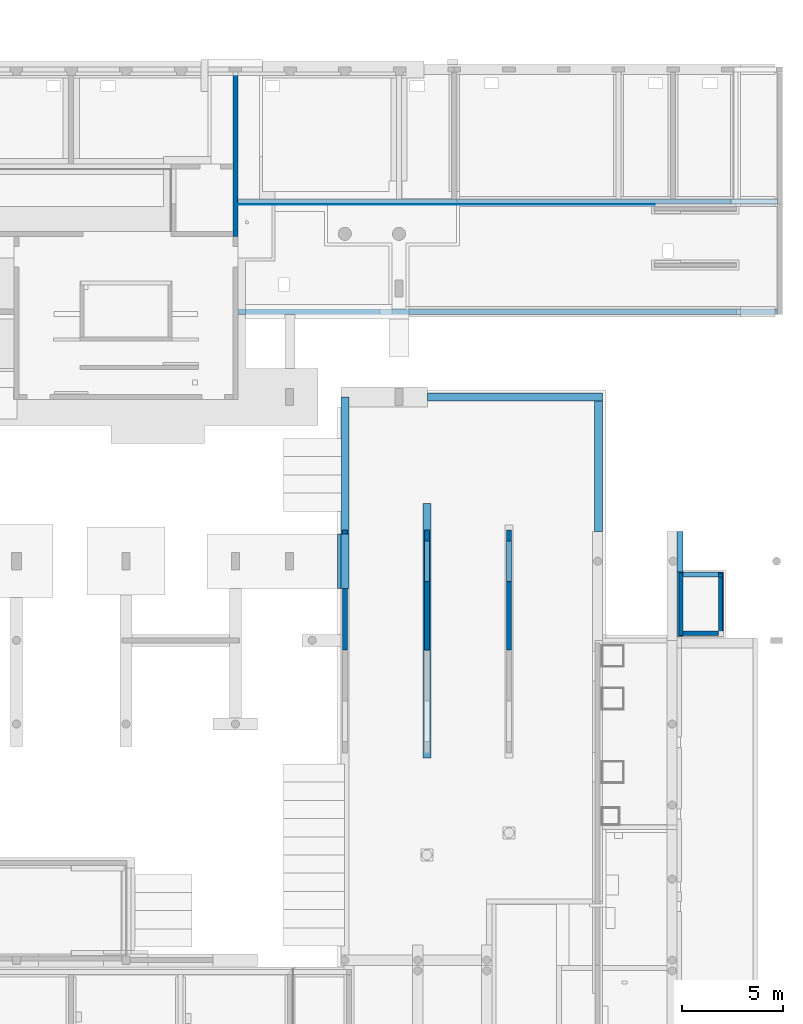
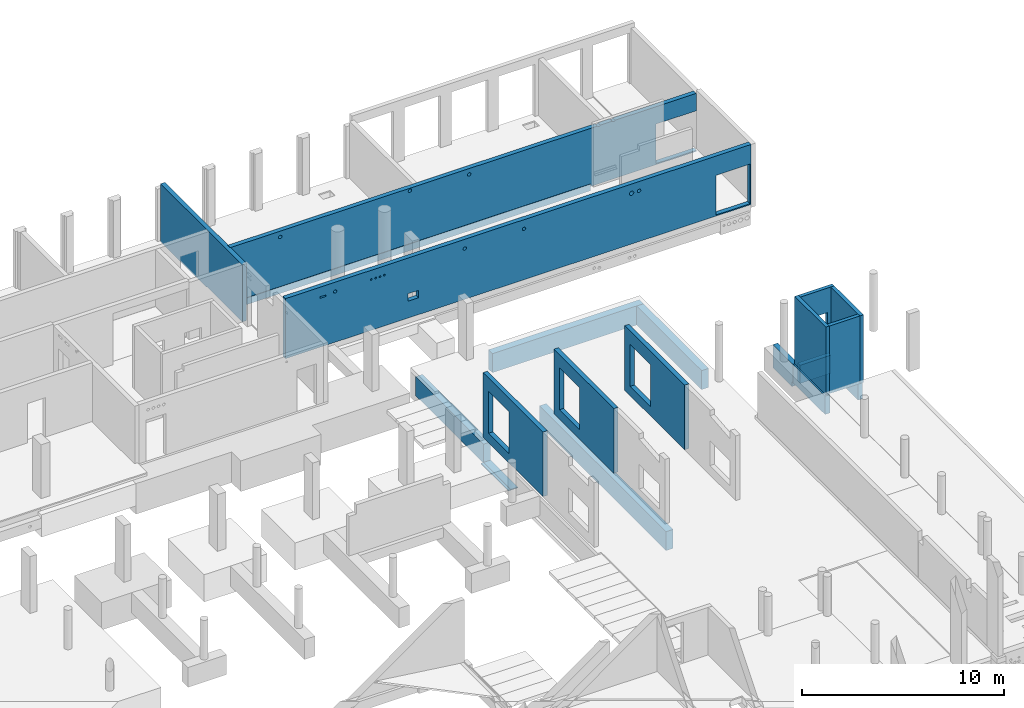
# One storey, part 47 of 60: 21 walls, 24 openings.
"""IFC2X3 building model written with IfcOpenShell, lengths in millimetres."""

from ifc_helpers import new_model, entity, si_unit, converted_unit, derived_unit, direction, frame, frame_2d, origin, origin_2d_with_axis, place, context, subcontext, project, spatial, polyline, rectangle, circle, extrude, clip, bounded_halfspace, material, layer, layer_set, layer_usage, type_object, element, save


model = new_model("IFC2X3")

# Units and contexts
model_context = context("Model", 3, precision=0.01, world=origin(), true_north=direction((6.12303176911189e-17, 1.0)))
body_context = subcontext(model_context, "Body", "Model", "MODEL_VIEW")
ifc_project = project(units=[si_unit("LENGTHUNIT", "METRE", prefix="MILLI"), si_unit("AREAUNIT", "SQUARE_METRE"), si_unit("VOLUMEUNIT", "CUBIC_METRE"), converted_unit("PLANEANGLEUNIT", "DEGREE", entity("IfcRatioMeasure", 0.0174532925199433), si_unit("PLANEANGLEUNIT", "RADIAN"), dimensions=[0, 0, 0, 0, 0, 0, 0]), si_unit("MASSUNIT", "GRAM", prefix="KILO"), derived_unit("MASSDENSITYUNIT", [(si_unit("MASSUNIT", "GRAM", prefix="KILO"), 1), (si_unit("LENGTHUNIT", "METRE"), -3)]), si_unit("TIMEUNIT", "SECOND"), si_unit("FREQUENCYUNIT", "HERTZ"), si_unit("THERMODYNAMICTEMPERATUREUNIT", "DEGREE_CELSIUS"), derived_unit("THERMALTRANSMITTANCEUNIT", [(si_unit("MASSUNIT", "GRAM", prefix="KILO"), 1), (si_unit("THERMODYNAMICTEMPERATUREUNIT", "KELVIN"), -1), (si_unit("TIMEUNIT", "SECOND"), -3)]), derived_unit("VOLUMETRICFLOWRATEUNIT", [(si_unit("LENGTHUNIT", "METRE"), 3), (si_unit("TIMEUNIT", "SECOND"), -1)]), si_unit("ELECTRICCURRENTUNIT", "AMPERE"), si_unit("ELECTRICVOLTAGEUNIT", "VOLT"), si_unit("POWERUNIT", "WATT"), si_unit("FORCEUNIT", "NEWTON", prefix="KILO"), si_unit("ILLUMINANCEUNIT", "LUX"), si_unit("LUMINOUSFLUXUNIT", "LUMEN"), si_unit("LUMINOUSINTENSITYUNIT", "CANDELA"), derived_unit("USERDEFINED", [(si_unit("MASSUNIT", "GRAM", prefix="KILO"), -1), (si_unit("LENGTHUNIT", "METRE"), -2), (si_unit("TIMEUNIT", "SECOND"), 3), (si_unit("LUMINOUSFLUXUNIT", "LUMEN"), 1)]), derived_unit("LINEARVELOCITYUNIT", [(si_unit("LENGTHUNIT", "METRE"), 1), (si_unit("TIMEUNIT", "SECOND"), -1)]), si_unit("PRESSUREUNIT", "PASCAL"), derived_unit("USERDEFINED", [(si_unit("LENGTHUNIT", "METRE"), -2), (si_unit("MASSUNIT", "GRAM", prefix="KILO"), 1), (si_unit("TIMEUNIT", "SECOND"), -2)])], contexts=[model_context])

# Site, building, storey
site_placement = place(None, origin())
site = spatial("IfcSite", under=ifc_project, at=site_placement, Name="Default", CompositionType="ELEMENT")
building_placement = place(site_placement, origin())
building = spatial("IfcBuilding", under=site, at=building_placement, Name="niet gebruiken", CompositionType="ELEMENT")
storey_placement = place(building_placement, origin())
storey = spatial("IfcBuildingStorey", under=building, at=storey_placement, Name="00 begane grond", CompositionType="ELEMENT", Elevation=0.0)

# Wall, openings
ifc_material_1 = material(Name="NLRS_f2_beton ihwg")
ifc_layer_1 = layer(ifc_material_1, 250.0)
ifc_layer_set_1 = layer_set([ifc_layer_1], Name="Basic Wall:NLRS_22.21_WA_beton ihwg d=250_gen")
ifc_layer_usage_1 = layer_usage(ifc_layer_set_1, "AXIS2", "NEGATIVE", 125.0)
wall_type_1 = type_object("IfcWallType", Name="Basic Wall:NLRS_22.21_WA_beton ihwg d=250_gen", PredefinedType="STANDARD", material=ifc_layer_set_1)
wall_1_placement = place(storey_placement, frame((97300.0, 46621.0, -160.0)))
wall_1 = element("IfcWallStandardCase", 1, at=wall_1_placement, inside=storey, type_object=wall_type_1, material=ifc_layer_usage_1, Name="Basic Wall:NLRS_22.21_WA_beton ihwg d=250_gen", ObjectType="Basic Wall:NLRS_22.21_WA_beton ihwg d=250_gen", context=body_context, shape_type="SweptSolid", body=[
    extrude(rectangle(XDim=26650.0, YDim=249.999999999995, at=frame_2d((13325.0, 6.53699316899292e-13), x_axis=(-1.0, 0.0))), origin(), (0.0, 0.0, 1.0), 3511.59527223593),
])
opening_1_placement = place(wall_1_placement, origin())
element("IfcOpeningElement", 2, at=opening_1_placement, cuts=wall_1, Name="Basic Wall:NLRS_22.21_WA_beton ihwg d=250_gen", ObjectType="Opening", context=body_context, shape_type="SweptSolid", body=[
    extrude(rectangle(XDim=2390.0, YDim=2300.0, at=frame_2d((1.13686837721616e-13, 1.72803993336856e-11), x_axis=(1.0, 0.0))), frame((25500.0, -1649.0, 1265.0), z_axis=(0.0, 1.0, 0.0), x_axis=(0.0, 0.0, 1.0)), (0.0, 0.0, 1.0), 3048.0),
])
opening_2_placement = place(wall_1_placement, origin())
element("IfcOpeningElement", 3, at=opening_2_placement, cuts=wall_1, Name="Basic Wall:NLRS_22.21_WA_beton ihwg d=250_gen", ObjectType="Opening", context=body_context, shape_type="SweptSolid", body=[
    extrude(circle(Radius=100.0, at=frame_2d((0.0, -5.41433564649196e-13), x_axis=(1.0, 0.0))), frame((21925.0, -125.0, 3560.0), z_axis=(0.0, 1.0, 0.0), x_axis=(1.0, 0.0, 0.0)), (0.0, 0.0, 1.0), 250.000000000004),
])
opening_3_placement = place(wall_1_placement, origin())
element("IfcOpeningElement", 4, at=opening_3_placement, cuts=wall_1, Name="Basic Wall:NLRS_22.21_WA_beton ihwg d=250_gen", ObjectType="Opening", context=body_context, shape_type="SweptSolid", body=[
    extrude(circle(Radius=100.0, at=frame_2d((0.0, -5.41433564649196e-13), x_axis=(1.0, 0.0))), frame((21075.0, -125.0, 3560.0), z_axis=(0.0, 1.0, 0.0), x_axis=(1.0, 0.0, 0.0)), (0.0, 0.0, 1.0), 250.000000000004),
])
opening_4_placement = place(wall_1_placement, origin())
element("IfcOpeningElement", 5, at=opening_4_placement, cuts=wall_1, Name="Basic Wall:NLRS_22.21_WA_beton ihwg d=250_gen", ObjectType="Opening", context=body_context, shape_type="SweptSolid", body=[
    extrude(circle(Radius=100.0, at=frame_2d((0.0, -5.41433564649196e-13), x_axis=(1.0, 0.0))), frame((2860.0, -125.0, 3160.0), z_axis=(0.0, 1.0, 0.0), x_axis=(1.0, 0.0, 0.0)), (0.0, 0.0, 1.0), 250.000000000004),
])
opening_5_placement = place(wall_1_placement, origin())
element("IfcOpeningElement", 6, at=opening_5_placement, cuts=wall_1, Name="Basic Wall:NLRS_22.21_WA_beton ihwg d=250_gen", ObjectType="Opening", context=body_context, shape_type="SweptSolid", body=[
    extrude(circle(Radius=100.0, at=frame_2d((0.0, -5.41433564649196e-13), x_axis=(1.0, 0.0))), frame((13660.0, -125.0, 3160.0), z_axis=(0.0, 1.0, 0.0), x_axis=(1.0, 0.0, 0.0)), (0.0, 0.0, 1.0), 250.000000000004),
])
opening_6_placement = place(wall_1_placement, origin())
element("IfcOpeningElement", 7, at=opening_6_placement, cuts=wall_1, Name="Basic Wall:NLRS_22.21_WA_beton ihwg d=250_gen", ObjectType="Opening", context=body_context, shape_type="SweptSolid", body=[
    extrude(circle(Radius=100.0, at=frame_2d((0.0, -5.41433564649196e-13), x_axis=(1.0, 0.0))), frame((10275.0, -125.0, 3360.0), z_axis=(0.0, 1.0, 0.0), x_axis=(1.0, 0.0, 0.0)), (0.0, 0.0, 1.0), 250.000000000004),
])

ifc_layer_usage_2 = layer_usage(ifc_layer_set_1, "AXIS2", "NEGATIVE", 125.0)
wall_2_placement = place(storey_placement, frame((97325.0, 41186.0, -70.0)))
wall_2 = element("IfcWallStandardCase", 8, at=wall_2_placement, inside=storey, type_object=wall_type_1, material=ifc_layer_usage_2, Name="Basic Wall:NLRS_22.21_WA_beton ihwg d=250_gen", ObjectType="Basic Wall:NLRS_22.21_WA_beton ihwg d=250_gen", context=body_context, shape_type="SweptSolid", body=[
    extrude(rectangle(XDim=26625.0000000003, YDim=249.999999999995, at=frame_2d((13312.5000000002, 6.18172180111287e-13), x_axis=(-1.0, 0.0))), origin(), (0.0, 0.0, 1.0), 3630.0),
])
opening_7_placement = place(wall_2_placement, origin())
element("IfcOpeningElement", 9, at=opening_7_placement, cuts=wall_2, Name="Basic Wall:NLRS_22.21_WA_beton ihwg d=250_gen", ObjectType="Opening", context=body_context, shape_type="SweptSolid", body=[
    extrude(rectangle(XDim=2396.0, YDim=1950.00000000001, at=origin_2d_with_axis()), frame((25580.0, -1649.0, 1268.0), z_axis=(0.0, 1.0, 0.0), x_axis=(0.0, 0.0, 1.0)), (0.0, 0.0, 1.0), 3048.0),
])
opening_8_placement = place(wall_2_placement, origin())
element("IfcOpeningElement", 10, at=opening_8_placement, cuts=wall_2, Name="Basic Wall:NLRS_22.21_WA_beton ihwg d=250_gen", ObjectType="Opening", context=body_context, shape_type="SweptSolid", body=[
    extrude(circle(Radius=100.0, at=frame_2d((0.0, -5.41433564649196e-13), x_axis=(1.0, 0.0))), frame((2835.0, -125.0, 3070.0), z_axis=(0.0, 1.0, 0.0), x_axis=(1.0, 0.0, 0.0)), (0.0, 0.0, 1.0), 250.000000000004),
])
opening_9_placement = place(wall_2_placement, origin())
element("IfcOpeningElement", 11, at=opening_9_placement, cuts=wall_2, Name="Basic Wall:NLRS_22.21_WA_beton ihwg d=250_gen", ObjectType="Opening", context=body_context, shape_type="SweptSolid", body=[
    extrude(circle(Radius=100.0, at=frame_2d((0.0, -5.41433564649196e-13), x_axis=(1.0, 0.0))), frame((10250.0, -125.0, 3070.0), z_axis=(0.0, 1.0, 0.0), x_axis=(1.0, 0.0, 0.0)), (0.0, 0.0, 1.0), 250.000000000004),
])
opening_10_placement = place(wall_2_placement, origin())
element("IfcOpeningElement", 12, at=opening_10_placement, cuts=wall_2, Name="Basic Wall:NLRS_22.21_WA_beton ihwg d=250_gen", ObjectType="Opening", context=body_context, shape_type="SweptSolid", body=[
    extrude(circle(Radius=100.0, at=frame_2d((0.0, -5.41433564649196e-13), x_axis=(1.0, 0.0))), frame((13635.0, -125.0, 3070.0), z_axis=(0.0, 1.0, 0.0), x_axis=(1.0, 0.0, 0.0)), (0.0, 0.0, 1.0), 250.000000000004),
])
opening_11_placement = place(wall_2_placement, origin())
element("IfcOpeningElement", 13, at=opening_11_placement, cuts=wall_2, Name="Basic Wall:NLRS_22.21_WA_beton ihwg d=250_gen", ObjectType="Opening", context=body_context, shape_type="SweptSolid", body=[
    extrude(rectangle(XDim=450.0, YDim=600.000000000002, at=origin_2d_with_axis()), frame((7300.0, -125.0, 1245.0), z_axis=(0.0, 1.0, 0.0), x_axis=(0.0, 0.0, -1.0)), (0.0, 0.0, 1.0), 249.999999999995),
])
opening_12_placement = place(wall_2_placement, origin())
element("IfcOpeningElement", 14, at=opening_12_placement, cuts=wall_2, Name="Basic Wall:NLRS_22.21_WA_beton ihwg d=250_gen", ObjectType="Opening", context=body_context, shape_type="SweptSolid", body=[
    extrude(circle(Radius=125.0, at=frame_2d((0.0, -5.41433564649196e-13), x_axis=(1.0, 0.0))), frame((19790.0, -125.0, 3070.0), z_axis=(0.0, 1.0, 0.0), x_axis=(1.0, 0.0, 0.0)), (0.0, 0.0, 1.0), 250.000000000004),
])
opening_13_placement = place(wall_2_placement, origin())
element("IfcOpeningElement", 15, at=opening_13_placement, cuts=wall_2, Name="Basic Wall:NLRS_22.21_WA_beton ihwg d=250_gen", ObjectType="Opening", context=body_context, shape_type="SweptSolid", body=[
    extrude(circle(Radius=100.0, at=frame_2d((0.0, -5.41433564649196e-13), x_axis=(1.0, 0.0))), frame((20215.0, -125.0, 3070.0), z_axis=(0.0, 1.0, 0.0), x_axis=(1.0, 0.0, 0.0)), (0.0, 0.0, 1.0), 250.000000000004),
])
opening_14_placement = place(wall_2_placement, origin())
element("IfcOpeningElement", 16, at=opening_14_placement, cuts=wall_2, Name="Basic Wall:NLRS_22.21_WA_beton ihwg d=250_gen", ObjectType="Opening", context=body_context, shape_type="SweptSolid", body=[
    extrude(rectangle(XDim=100.0, YDim=339.999999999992, at=origin_2d_with_axis()), frame((2149.99999001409, -125.0, 3000.0), z_axis=(0.0, 1.0, 0.0), x_axis=(0.0, 0.0, -1.0)), (0.0, 0.0, 1.0), 249.999999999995),
])
opening_15_placement = place(wall_2_placement, origin())
element("IfcOpeningElement", 17, at=opening_15_placement, cuts=wall_2, Name="Basic Wall:NLRS_22.21_WA_beton ihwg d=250_gen", ObjectType="Opening", context=body_context, shape_type="SweptSolid", body=[
    extrude(circle(Radius=55.0, at=origin_2d_with_axis()), frame((5650.06800898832, -125.0, 3070.0), z_axis=(0.0, 1.0, 0.0), x_axis=(1.0, 0.0, 0.0)), (0.0, 0.0, 1.0), 250.000000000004),
])
opening_16_placement = place(wall_2_placement, origin())
element("IfcOpeningElement", 18, at=opening_16_placement, cuts=wall_2, Name="Basic Wall:NLRS_22.21_WA_beton ihwg d=250_gen", ObjectType="Opening", context=body_context, shape_type="SweptSolid", body=[
    extrude(circle(Radius=55.0, at=origin_2d_with_axis()), frame((5400.06800898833, -125.0, 3070.0), z_axis=(0.0, 1.0, 0.0), x_axis=(1.0, 0.0, 0.0)), (0.0, 0.0, 1.0), 250.000000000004),
])
opening_17_placement = place(wall_2_placement, origin())
element("IfcOpeningElement", 19, at=opening_17_placement, cuts=wall_2, Name="Basic Wall:NLRS_22.21_WA_beton ihwg d=250_gen", ObjectType="Opening", context=body_context, shape_type="SweptSolid", body=[
    extrude(circle(Radius=55.0, at=origin_2d_with_axis()), frame((5150.06800898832, -125.0, 3070.0), z_axis=(0.0, 1.0, 0.0), x_axis=(1.0, 0.0, 0.0)), (0.0, 0.0, 1.0), 250.000000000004),
])
opening_18_placement = place(wall_2_placement, origin())
element("IfcOpeningElement", 20, at=opening_18_placement, cuts=wall_2, Name="Basic Wall:NLRS_22.21_WA_beton ihwg d=250_gen", ObjectType="Opening", context=body_context, shape_type="SweptSolid", body=[
    extrude(circle(Radius=55.0, at=origin_2d_with_axis()), frame((4900.06800898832, -125.0, 3070.0), z_axis=(0.0, 1.0, 0.0), x_axis=(1.0, 0.0, 0.0)), (0.0, 0.0, 1.0), 250.000000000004),
])

# Wall, opening
ifc_layer_usage_3 = layer_usage(ifc_layer_set_1, "AXIS2", "NEGATIVE", 125.0)
wall_3_placement = place(storey_placement, frame((97200.0, 53006.0, -160.0), z_axis=(0.0, 0.0, 1.0), x_axis=(0.0, -1.0, 0.0)))
wall_3 = element("IfcWallStandardCase", 21, at=wall_3_placement, inside=storey, type_object=wall_type_1, material=ifc_layer_usage_3, Name="Basic Wall:NLRS_22.21_WA_beton ihwg d=250_gen", ObjectType="Basic Wall:NLRS_22.21_WA_beton ihwg d=250_gen", context=body_context, shape_type="Clipping", body=[
    clip(clip(clip(clip(extrude(rectangle(XDim=8099.99999999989, YDim=250.000000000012, at=frame_2d((4049.99999999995, -8.66862137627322e-13), x_axis=(-1.0, 0.0))), origin(), (0.0, 0.0, 1.0), 3510.00000000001), bounded_halfspace(frame((6260.0, 100.0, 3510.0), z_axis=(0.0, -1.0, 0.0), x_axis=(-1.0, 0.0, 0.0)), True, frame((6260.0, 100.0, 3510.0), z_axis=(0.0, -1.0, 0.0), x_axis=(-1.0, 0.0, 0.0)), polyline([(0.0, 0.0), (0.0, 3440.0), (-250.0, 3440.0), (-250.0, 0.0), (0.0, 0.0)]))), bounded_halfspace(frame((0.0, -125.0, 3510.0), z_axis=(0.0, 0.0, -1.0), x_axis=(1.0, 0.0, 0.0)), True, frame((0.0, -125.0, 3510.0), z_axis=(0.0, 0.0, -1.0), x_axis=(1.0, 0.0, 0.0)), polyline([(0.0, 0.0), (0.0, -20.0), (0.0, -230.0), (0.0, -250.0), (2580.0, -250.0), (5860.0, -250.0), (6260.0, -250.0), (6260.0, -225.0), (6510.0, -225.0), (6510.0, -250.0), (8100.0, -250.0), (8100.0, 0.0), (7850.0, 0.0), (4780.0, 0.0), (4530.0, 0.0), (0.0, 0.0)]))), bounded_halfspace(frame((4530.0, -125.0, 70.0)), True, frame((4530.0, -125.0, 70.0)), polyline([(0.0, 0.0), (250.0, 0.0), (3320.0, 0.0), (3570.0, 0.0), (3570.0, 250.0), (1980.0, 250.0), (1980.0, 225.0), (1730.0, 225.0), (1730.0, 250.0), (5.0, 250.0), (5.0, 210.0), (0.0, 210.0), (0.0, 0.0)]))), bounded_halfspace(frame((4530.0, 85.0, 70.0), z_axis=(-1.0, 0.0, 0.0), x_axis=(0.0, 0.0, 1.0)), True, frame((4530.0, 85.0, 70.0), z_axis=(-1.0, 0.0, 0.0), x_axis=(0.0, 0.0, 1.0)), polyline([(0.0, 0.0), (0.0, 40.0), (-70.0, 40.0), (-70.0, -210.0), (0.0, -210.0), (0.0, 0.0)]))),
])
opening_19_placement = place(wall_3_placement, origin())
element("IfcOpeningElement", 22, at=opening_19_placement, cuts=wall_3, Name="Basic Wall:NLRS_22.21_WA_beton ihwg d=250_gen", ObjectType="Recess", context=body_context, shape_type="SweptSolid", body=[
    extrude(rectangle(XDim=890.0, YDim=49.9999999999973, at=origin_2d_with_axis()), frame((4510.0, 85.0, 515.0), z_axis=(0.0, 1.0, 0.0), x_axis=(0.0, 0.0, -1.0)), (0.0, 0.0, 1.0), 39.9999999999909),
])

ifc_material_2 = material(Name="NLRS_f2_beton prefab")
ifc_layer_2 = layer(ifc_material_2, 250.0)
ifc_layer_set_2 = layer_set([ifc_layer_2], Name="Basic Wall:NLRS_22.21_WA_beton prefab d=250_gen")
ifc_layer_usage_4 = layer_usage(ifc_layer_set_2, "AXIS2", "NEGATIVE", 125.0)
wall_type_2 = type_object("IfcWallType", Name="Basic Wall:NLRS_22.21_WA_beton prefab d=250_gen", PredefinedType="STANDARD", material=ifc_layer_set_2)
wall_4_placement = place(storey_placement, frame((102600.0, 30426.0, -170.0), z_axis=(0.0, 0.0, 1.0), x_axis=(0.0, -1.0, 0.0)))
wall_4 = element("IfcWallStandardCase", 23, at=wall_4_placement, inside=storey, type_object=wall_type_2, material=ifc_layer_usage_4, Name="Basic Wall:NLRS_22.21_WA_beton prefab d=250_gen", ObjectType="Basic Wall:NLRS_22.21_WA_beton prefab d=250_gen", context=body_context, shape_type="SweptSolid", body=[
    extrude(rectangle(XDim=5934.99999999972, YDim=250.000000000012, at=frame_2d((2967.49999999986, 0.0), x_axis=(-1.0, 0.0))), origin(), (0.0, 0.0, 1.0), 3910.00000000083),
])
opening_20_placement = place(wall_4_placement, origin())
element("IfcOpeningElement", 24, at=opening_20_placement, cuts=wall_4, Name="Basic Wall:NLRS_22.21_WA_beton prefab d=250_gen", ObjectType="Opening", context=body_context, shape_type="SweptSolid", body=[
    extrude(rectangle(XDim=2540.0, YDim=2000.0, at=frame_2d((-2.1600499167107e-12, 1.13686837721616e-13), x_axis=(0.0, 1.0))), frame((1550.0, -1399.0, 1840.0), z_axis=(0.0, 1.0, 0.0), x_axis=(-1.0, 0.0, 0.0)), (0.0, 0.0, 1.0), 3048.0),
])

ifc_layer_usage_5 = layer_usage(ifc_layer_set_2, "AXIS2", "NEGATIVE", 125.0)
wall_5_placement = place(storey_placement, frame((106650.0, 30426.0, -170.0), z_axis=(0.0, 0.0, 1.0), x_axis=(0.0, -1.0, 0.0)))
wall_5 = element("IfcWallStandardCase", 25, at=wall_5_placement, inside=storey, type_object=wall_type_2, material=ifc_layer_usage_5, Name="Basic Wall:NLRS_22.21_WA_beton prefab d=250_gen", ObjectType="Basic Wall:NLRS_22.21_WA_beton prefab d=250_gen", context=body_context, shape_type="SweptSolid", body=[
    extrude(rectangle(XDim=5934.99999999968, YDim=250.000000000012, at=frame_2d((2967.49999999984, 0.0), x_axis=(-1.0, 0.0))), origin(), (0.0, 0.0, 1.0), 3910.00000000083),
])
opening_21_placement = place(wall_5_placement, origin())
element("IfcOpeningElement", 26, at=opening_21_placement, cuts=wall_5, Name="Basic Wall:NLRS_22.21_WA_beton prefab d=250_gen", ObjectType="Opening", context=body_context, shape_type="SweptSolid", body=[
    extrude(rectangle(XDim=2540.0, YDim=2000.0, at=frame_2d((2.1600499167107e-12, 1.13686837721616e-13), x_axis=(0.0, 1.0))), frame((1550.0, -1399.0, 1840.0), z_axis=(0.0, 1.0, 0.0), x_axis=(-1.0, 0.0, 0.0)), (0.0, 0.0, 1.0), 3048.0),
])

ifc_layer_usage_6 = layer_usage(ifc_layer_set_2, "AXIS2", "NEGATIVE", 125.0)
wall_6_placement = place(storey_placement, frame((110700.0, 30426.0, -170.0), z_axis=(0.0, 0.0, 1.0), x_axis=(0.0, -1.0, 0.0)))
wall_6 = element("IfcWallStandardCase", 27, at=wall_6_placement, inside=storey, type_object=wall_type_2, material=ifc_layer_usage_6, Name="Basic Wall:NLRS_22.21_WA_beton prefab d=250_gen", ObjectType="Basic Wall:NLRS_22.21_WA_beton prefab d=250_gen", context=body_context, shape_type="SweptSolid", body=[
    extrude(rectangle(XDim=5934.99999999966, YDim=250.000000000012, at=frame_2d((2967.49999999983, 0.0), x_axis=(-1.0, 0.0))), origin(), (0.0, 0.0, 1.0), 3910.00000000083),
])
opening_22_placement = place(wall_6_placement, origin())
element("IfcOpeningElement", 28, at=opening_22_placement, cuts=wall_6, Name="Basic Wall:NLRS_22.21_WA_beton prefab d=250_gen", ObjectType="Opening", context=body_context, shape_type="SweptSolid", body=[
    extrude(rectangle(XDim=2540.0, YDim=2000.0, at=frame_2d((-2.1600499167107e-12, 1.13686837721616e-13), x_axis=(0.0, 1.0))), frame((1550.0, -1399.0, 1840.0), z_axis=(0.0, 1.0, 0.0), x_axis=(-1.0, 0.0, 0.0)), (0.0, 0.0, 1.0), 3048.0),
])

# Walls
ifc_layer_3 = layer(ifc_material_1, 250.0)
ifc_layer_set_3 = layer_set([ifc_layer_3], Name="Basic Wall:NLRS_16.21_WA_beton ihwg d=250_gen")
ifc_layer_usage_7 = layer_usage(ifc_layer_set_3, "AXIS2", "NEGATIVE", 125.0)
wall_type_3 = type_object("IfcWallType", Name="Basic Wall:NLRS_16.21_WA_beton ihwg d=250_gen", PredefinedType="STANDARD", material=ifc_layer_set_3)
wall_7_placement = place(storey_placement, frame((119275.0, 28231.0, -1400.0)))
element("IfcWallStandardCase", 29, at=wall_7_placement, inside=storey, type_object=wall_type_3, material=ifc_layer_usage_7, Name="Basic Wall:NLRS_16.21_WA_beton ihwg d=250_gen", ObjectType="Basic Wall:NLRS_16.21_WA_beton ihwg d=250_gen", context=body_context, shape_type="SweptSolid", body=[
    extrude(rectangle(XDim=1750.00000000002, YDim=250.000000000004, at=frame_2d((875.000000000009, 0.0), x_axis=(-1.0, 0.0))), origin(), (0.0, 0.0, 1.0), 1100.0),
])
ifc_layer_usage_8 = layer_usage(ifc_layer_set_3, "AXIS2", "NEGATIVE", 125.0)
wall_8_placement = place(storey_placement, frame((121150.0, 28356.0, -1400.0), z_axis=(0.0, 0.0, 1.0), x_axis=(0.0, -1.0, 0.0)))
element("IfcWallStandardCase", 30, at=wall_8_placement, inside=storey, type_object=wall_type_3, material=ifc_layer_usage_8, Name="Basic Wall:NLRS_16.21_WA_beton ihwg d=250_gen", ObjectType="Basic Wall:NLRS_16.21_WA_beton ihwg d=250_gen", context=body_context, shape_type="SweptSolid", body=[
    extrude(rectangle(XDim=2930.0, YDim=250.000000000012, at=frame_2d((1465.0, 2.41584530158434e-13), x_axis=(-1.0, 0.0))), origin(), (0.0, 0.0, 1.0), 1100.0),
])
ifc_layer_4 = layer(ifc_material_2, 200.0)
ifc_layer_set_4 = layer_set([ifc_layer_4], Name="Basic Wall:NLRS_22.21_WA_beton prefab d=200_gen")
ifc_layer_usage_9 = layer_usage(ifc_layer_set_4, "AXIS2", "NEGATIVE", 100.0)
wall_type_4 = type_object("IfcWallType", Name="Basic Wall:NLRS_22.21_WA_beton prefab d=200_gen", PredefinedType="STANDARD", material=ifc_layer_set_4)
wall_9_placement = place(storey_placement, frame((119175.0, 25226.0, -270.0), z_axis=(0.0, 0.0, 1.0), x_axis=(0.0, 1.0, 0.0)))
element("IfcWallStandardCase", 31, at=wall_9_placement, inside=storey, type_object=wall_type_4, material=ifc_layer_usage_9, Name="Basic Wall:NLRS_22.21_WA_beton prefab d=200_gen", ObjectType="Basic Wall:NLRS_22.21_WA_beton prefab d=200_gen", context=body_context, shape_type="SweptSolid", body=[
    extrude(rectangle(XDim=3080.0, YDim=199.999999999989, at=frame_2d((1540.0, 0.0), x_axis=(-1.0, 0.0))), origin(), (0.0, 0.0, 1.0), 4090.0),
])
ifc_layer_usage_10 = layer_usage(ifc_layer_set_4, "AXIS2", "NEGATIVE", 100.0)
wall_10_placement = place(storey_placement, frame((121125.0, 25226.0, -270.0), z_axis=(0.0, 0.0, 1.0), x_axis=(0.0, 1.0, 0.0)))
element("IfcWallStandardCase", 32, at=wall_10_placement, inside=storey, type_object=wall_type_4, material=ifc_layer_usage_10, Name="Basic Wall:NLRS_22.21_WA_beton prefab d=200_gen", ObjectType="Basic Wall:NLRS_22.21_WA_beton prefab d=200_gen", context=body_context, shape_type="SweptSolid", body=[
    extrude(rectangle(XDim=2880.0, YDim=199.999999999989, at=frame_2d((1440.0, 0.0), x_axis=(-1.0, 0.0))), origin(), (0.0, 0.0, 1.0), 4090.0),
])
ifc_layer_usage_11 = layer_usage(ifc_layer_set_4, "AXIS2", "NEGATIVE", 100.0)
wall_11_placement = place(storey_placement, frame((121025.0, 25326.0, -270.0), z_axis=(0.0, 0.0, 1.0), x_axis=(-1.0, 0.0, 0.0)))
element("IfcWallStandardCase", 33, at=wall_11_placement, inside=storey, type_object=wall_type_4, material=ifc_layer_usage_11, Name="Basic Wall:NLRS_22.21_WA_beton prefab d=200_gen", ObjectType="Basic Wall:NLRS_22.21_WA_beton prefab d=200_gen", context=body_context, shape_type="SweptSolid", body=[
    extrude(rectangle(XDim=1750.0, YDim=199.999999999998, at=frame_2d((875.0, -6.03961325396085e-13), x_axis=(-1.0, 0.0))), origin(), (0.0, 0.0, 1.0), 4090.0),
])

# Wall, openings
ifc_layer_usage_12 = layer_usage(ifc_layer_set_4, "AXIS2", "NEGATIVE", 100.0)
wall_12_placement = place(storey_placement, frame((121225.0, 28206.0, -270.0), z_axis=(0.0, 0.0, 1.0), x_axis=(-1.0, 0.0, 0.0)))
wall_12 = element("IfcWallStandardCase", 34, at=wall_12_placement, inside=storey, type_object=wall_type_4, material=ifc_layer_usage_12, Name="Basic Wall:NLRS_22.21_WA_beton prefab d=200_gen", ObjectType="Basic Wall:NLRS_22.21_WA_beton prefab d=200_gen", context=body_context, shape_type="SweptSolid", body=[
    extrude(rectangle(XDim=1950.00000000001, YDim=199.999999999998, at=frame_2d((975.000000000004, -4.2632564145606e-13), x_axis=(-1.0, 0.0))), origin(), (0.0, 0.0, 1.0), 4090.0),
])
opening_23_placement = place(wall_12_placement, origin())
element("IfcOpeningElement", 35, at=opening_23_placement, cuts=wall_12, Name="Basic Wall:NLRS_22.21_WA_beton prefab d=200_gen", ObjectType="Opening", context=body_context, shape_type="SweptSolid", body=[
    extrude(rectangle(XDim=2340.0, YDim=980.000000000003, at=frame_2d((8.66862137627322e-12, 0.0), x_axis=(0.0, 1.0))), frame((870.0, -1424.0, 1440.0), z_axis=(0.0, 1.0, 0.0), x_axis=(-1.0, 0.0, 0.0)), (0.0, 0.0, 1.0), 3048.0),
])
opening_24_placement = place(wall_12_placement, origin())
element("IfcOpeningElement", 36, at=opening_24_placement, cuts=wall_12, Name="Basic Wall:NLRS_22.21_WA_beton prefab d=200_gen", ObjectType="Opening", context=body_context, shape_type="SweptSolid", body=[
    extrude(rectangle(XDim=505.000000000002, YDim=75.0000000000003, at=frame_2d((-7.105427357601e-14, 0.0), x_axis=(1.0, 0.0))), frame((237.500000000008, -1624.0, 1472.5), z_axis=(0.0, 1.0, 0.0), x_axis=(0.0, 0.0, 1.0)), (0.0, 0.0, 1.0), 3048.0),
])

# Walls
ifc_layer_5 = layer(ifc_material_1, 150.0)
ifc_layer_set_5 = layer_set([ifc_layer_5], Name="Basic Wall:NLRS_21.21_WA_beton ihwg d=150_gen")
ifc_layer_usage_13 = layer_usage(ifc_layer_set_5, "AXIS2", "NEGATIVE", 75.0)
wall_type_5 = type_object("IfcWallType", Name="Basic Wall:NLRS_21.21_WA_beton ihwg d=150_gen", PredefinedType="STANDARD", material=ifc_layer_set_5)
wall_13_placement = place(storey_placement, frame((102325.0, 30231.0, -1600.0), z_axis=(0.0, 0.0, 1.0), x_axis=(0.0, -1.0, 0.0)))
element("IfcWallStandardCase", 37, at=wall_13_placement, inside=storey, type_object=wall_type_5, material=ifc_layer_usage_13, Name="Basic Wall:NLRS_21.21_WA_beton ihwg d=150_gen", ObjectType="Basic Wall:NLRS_21.21_WA_beton ihwg d=150_gen", context=body_context, shape_type="SweptSolid", body=[
    extrude(rectangle(XDim=2700.00000000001, YDim=150.000000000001, at=frame_2d((1350.0, 0.0), x_axis=(-1.0, 0.0))), origin(), (0.0, 0.0, 1.0), 50.0000000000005),
])
ifc_layer_6 = layer(ifc_material_1, 400.0)
ifc_layer_set_6 = layer_set([ifc_layer_6], Name="Basic Wall:NLRS_16.21_WA_beton ihwg d=400_gen")
ifc_layer_usage_14 = layer_usage(ifc_layer_set_6, "AXIS2", "NEGATIVE", 200.0)
wall_type_6 = type_object("IfcWallType", Name="Basic Wall:NLRS_16.21_WA_beton ihwg d=400_gen", PredefinedType="STANDARD", material=ifc_layer_set_6)
wall_14_placement = place(storey_placement, frame((102600.0, 36981.0, -1600.0), z_axis=(0.0, 0.0, 1.0), x_axis=(0.0, -1.0, 0.0)))
element("IfcWallStandardCase", 38, at=wall_14_placement, inside=storey, type_object=wall_type_6, material=ifc_layer_usage_14, Name="Basic Wall:NLRS_16.21_WA_beton ihwg d=400_gen", ObjectType="Basic Wall:NLRS_16.21_WA_beton ihwg d=400_gen", context=body_context, shape_type="SweptSolid", body=[
    extrude(rectangle(XDim=6750.00000000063, YDim=400.000000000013, at=frame_2d((3375.00000000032, 0.0), x_axis=(-1.0, 0.0))), origin(), (0.0, 0.0, 1.0), 1150.0),
])
ifc_layer_usage_15 = layer_usage(ifc_layer_set_6, "AXIS2", "NEGATIVE", 200.0)
wall_15_placement = place(storey_placement, frame((106650.0, 31726.0, -1600.0), z_axis=(0.0, 0.0, 1.0), x_axis=(0.0, -1.0, 0.0)))
element("IfcWallStandardCase", 39, at=wall_15_placement, inside=storey, type_object=wall_type_6, material=ifc_layer_usage_15, Name="Basic Wall:NLRS_16.21_WA_beton ihwg d=400_gen", ObjectType="Basic Wall:NLRS_16.21_WA_beton ihwg d=400_gen", context=body_context, shape_type="SweptSolid", body=[
    extrude(rectangle(XDim=12550.0, YDim=400.000000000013, at=frame_2d((6275.0, 0.0), x_axis=(-1.0, 0.0))), origin(), (0.0, 0.0, 1.0), 1150.0),
])
ifc_layer_usage_16 = layer_usage(ifc_layer_set_6, "AXIS2", "NEGATIVE", 200.0)
wall_16_placement = place(storey_placement, frame((106675.0, 36981.0, -1600.0)))
element("IfcWallStandardCase", 40, at=wall_16_placement, inside=storey, type_object=wall_type_6, material=ifc_layer_usage_16, Name="Basic Wall:NLRS_16.21_WA_beton ihwg d=400_gen", ObjectType="Basic Wall:NLRS_16.21_WA_beton ihwg d=400_gen", context=body_context, shape_type="SweptSolid", body=[
    extrude(rectangle(XDim=8650.00000000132, YDim=399.999999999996, at=frame_2d((4325.00000000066, 3.69482222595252e-13), x_axis=(-1.0, 0.0))), origin(), (0.0, 0.0, 1.0), 1150.0),
])
ifc_layer_usage_17 = layer_usage(ifc_layer_set_6, "AXIS2", "NEGATIVE", 200.0)
wall_17_placement = place(storey_placement, frame((102600.0, 30231.0, -1600.0), z_axis=(0.0, 0.0, 1.0), x_axis=(0.0, -1.0, 0.0)))
element("IfcWallStandardCase", 41, at=wall_17_placement, inside=storey, type_object=wall_type_6, material=ifc_layer_usage_17, Name="Basic Wall:NLRS_16.21_WA_beton ihwg d=400_gen", ObjectType="Basic Wall:NLRS_16.21_WA_beton ihwg d=400_gen", context=body_context, shape_type="SweptSolid", body=[
    extrude(rectangle(XDim=2700.00000000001, YDim=400.000000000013, at=frame_2d((1350.0, 0.0), x_axis=(-1.0, 0.0))), origin(), (0.0, 0.0, 1.0), 50.0000000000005),
])
ifc_layer_usage_18 = layer_usage(ifc_layer_set_6, "AXIS2", "NEGATIVE", 200.0)
wall_18_placement = place(storey_placement, frame((115125.0, 36781.0, -1600.0), z_axis=(0.0, 0.0, 1.0), x_axis=(0.0, -1.0, 0.0)))
element("IfcWallStandardCase", 42, at=wall_18_placement, inside=storey, type_object=wall_type_6, material=ifc_layer_usage_18, Name="Basic Wall:NLRS_16.21_WA_beton ihwg d=400_gen", ObjectType="Basic Wall:NLRS_16.21_WA_beton ihwg d=400_gen", context=body_context, shape_type="SweptSolid", body=[
    extrude(rectangle(XDim=6445.00000000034, YDim=400.000000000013, at=frame_2d((3222.50000000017, 0.0), x_axis=(-1.0, 0.0))), origin(), (0.0, 0.0, 1.0), 1150.0),
])
ifc_layer_7 = layer(ifc_material_1, 275.0)
ifc_layer_set_7 = layer_set([ifc_layer_7], Name="Basic Wall:NLRS_16.21_WA_beton ihwg d=275_gen")
ifc_layer_usage_19 = layer_usage(ifc_layer_set_7, "AXIS2", "NEGATIVE", 137.5)
wall_type_7 = type_object("IfcWallType", Name="Basic Wall:NLRS_16.21_WA_beton ihwg d=275_gen", PredefinedType="STANDARD", material=ifc_layer_set_7)
wall_19_placement = place(storey_placement, frame((119137.5, 25176.0, -1400.0), z_axis=(0.0, 0.0, 1.0), x_axis=(0.0, 1.0, 0.0)))
element("IfcWallStandardCase", 43, at=wall_19_placement, inside=storey, type_object=wall_type_7, material=ifc_layer_usage_19, Name="Basic Wall:NLRS_16.21_WA_beton ihwg d=275_gen", ObjectType="Basic Wall:NLRS_16.21_WA_beton ihwg d=275_gen", context=body_context, shape_type="SweptSolid", body=[
    extrude(rectangle(XDim=3180.0, YDim=274.999999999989, at=frame_2d((1590.0, 0.0), x_axis=(-1.0, 0.0))), origin(), (0.0, 0.0, 1.0), 1100.0),
])
ifc_layer_usage_20 = layer_usage(ifc_layer_set_7, "AXIS2", "NEGATIVE", 137.5)
wall_20_placement = place(storey_placement, frame((119137.5, 28356.0, -1700.0), z_axis=(0.0, 0.0, 1.0), x_axis=(0.0, 1.0, 0.0)))
element("IfcWallStandardCase", 44, at=wall_20_placement, inside=storey, type_object=wall_type_7, material=ifc_layer_usage_20, Name="Basic Wall:NLRS_16.21_WA_beton ihwg d=275_gen", ObjectType="Basic Wall:NLRS_16.21_WA_beton ihwg d=275_gen", context=body_context, shape_type="Clipping", body=[
    clip(clip(extrude(rectangle(XDim=1979.99999999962, YDim=274.999999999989, at=frame_2d((989.999999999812, 0.0), x_axis=(-1.0, 0.0))), origin(), (0.0, 0.0, 1.0), 1400.0), bounded_halfspace(frame((100.0, 137.500000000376, 300.0), z_axis=(0.0, 0.0, 1.0), x_axis=(0.0, 1.0, 0.0)), True, frame((100.0, 137.500000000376, 300.0), z_axis=(0.0, 0.0, 1.0), x_axis=(0.0, 1.0, 0.0)), polyline([(0.0, 0.0), (0.0, 100.0), (-275.0, 100.0), (-275.0, 0.0), (0.0, 0.0)]))), bounded_halfspace(frame((100.0, -137.500000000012, 300.0), z_axis=(1.0, 0.0, 0.0), x_axis=(0.0, 0.0, 1.0)), True, frame((100.0, -137.500000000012, 300.0), z_axis=(1.0, 0.0, 0.0), x_axis=(0.0, 0.0, 1.0)), polyline([(0.0, 0.0), (-300.0, 0.0), (-300.0, -275.0), (0.0, -275.0), (0.0, 0.0)]))),
])
ifc_material_3 = material(Name="NLRS_n7_isolatie EPS")
ifc_layer_8 = layer(ifc_material_3, 20.0)
ifc_layer_set_8 = layer_set([ifc_layer_8], Name="Basic Wall:NLRS_21.12_WA_isolatie EPS platen d=20_gen")
ifc_layer_usage_21 = layer_usage(ifc_layer_set_8, "AXIS2", "NEGATIVE", 10.0)
wall_type_8 = type_object("IfcWallType", Name="Basic Wall:NLRS_21.12_WA_isolatie EPS platen d=20_gen", PredefinedType="STANDARD", material=ifc_layer_set_8)
wall_21_placement = place(storey_placement, frame((97325.0, 46486.0, -402.0)))
element("IfcWallStandardCase", 45, at=wall_21_placement, inside=storey, type_object=wall_type_8, material=ifc_layer_usage_21, Name="Basic Wall:NLRS_21.12_WA_isolatie EPS platen d=20_gen", ObjectType="Basic Wall:NLRS_21.12_WA_isolatie EPS platen d=20_gen", context=body_context, shape_type="SweptSolid", body=[
    extrude(rectangle(XDim=20555.0000000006, YDim=19.9999999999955, at=frame_2d((10277.5000000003, 2.45758968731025e-12), x_axis=(-1.0, 0.0))), origin(), (0.0, 0.0, 1.0), 402.0),
])

save(model, "model.ifc")
